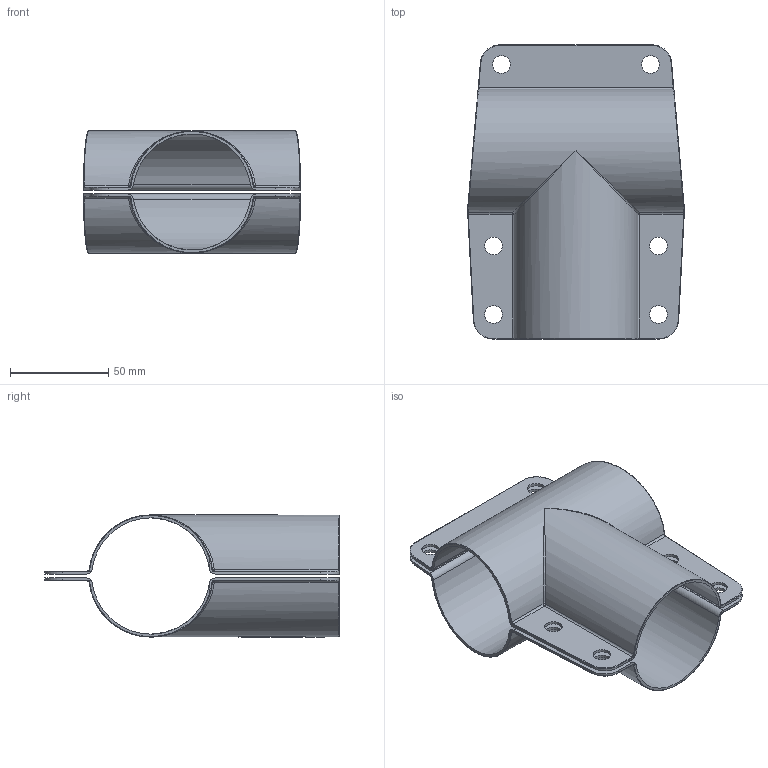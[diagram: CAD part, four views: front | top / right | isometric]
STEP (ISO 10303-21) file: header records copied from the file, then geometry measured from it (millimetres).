
FILE_DESCRIPTION(('STEP AP214'),'1');
FILE_NAME('P41402','2017-01-12T09:22:22',('dentellad'),(' '),'Spatial InterOp 3D',' ',' ');
FILE_SCHEMA(('automotive_design'));
Length unit declared in the file: millimetre
Products named in the file (2): 1; 2
Bounding box: 110.62 x 150 x 62.3 mm (x, y, z)
Volume: 58618 mm3; surface area: 80761.6 mm2
Topology: 2 solids, 2 shells, 622 faces, 1833 edges, 1194 vertices
Faces by surface type: plane 458, cylinder 92, bspline 56, torus 12, sphere 4
Entity records: 45267 total; most frequent: CARTESIAN_POINT 17036, ORIENTED_EDGE 3618, STYLED_ITEM 2420, PRESENTATION_STYLE_ASSIGNMENT 2420, COLOUR_RGB 2420, DIRECTION 1973, EDGE_CURVE 1809, CURVE_STYLE 1796
